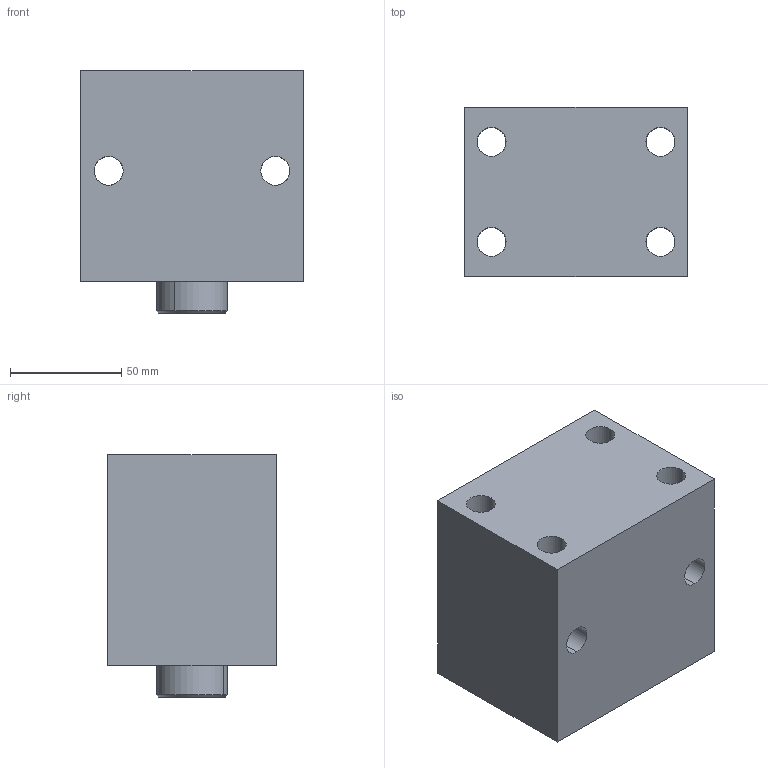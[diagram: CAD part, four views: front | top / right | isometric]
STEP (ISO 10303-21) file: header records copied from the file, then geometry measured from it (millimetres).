
FILE_DESCRIPTION (( 'STEP AP203' ), '1' );
FILE_NAME ('Block cylinder_B01C-425F.STEP', '2022-07-09T18:30:31', ( '' ), ( '' ), 'SwSTEP 2.0', 'SolidWorks 2017', '' );
FILE_SCHEMA (( 'CONFIG_CONTROL_DESIGN' ));
Length unit declared in the file: millimetre
Products named in the file (3): Block cylinder_B01C-425F; Body_425F_50ST; Piston_425F_50sT
Assembly tree (2 placements, depth 2):
  Block cylinder_B01C-425F
    Body_425F_50ST
    Piston_425F_50sT
Bounding box: 100 x 76 x 109 mm (x, y, z)
Volume: 673936.1 mm3; surface area: 81434.7 mm2
Topology: 2 solids, 2 shells, 228 faces, 616 edges, 405 vertices
Faces by surface type: plane 117, bspline 71, cylinder 32, cone 8
Entity records: 12171 total; most frequent: CARTESIAN_POINT 6607, ORIENTED_EDGE 1220, DIRECTION 826, EDGE_CURVE 610, VERTEX_POINT 405, VECTOR 386, LINE 386, EDGE_LOOP 267
